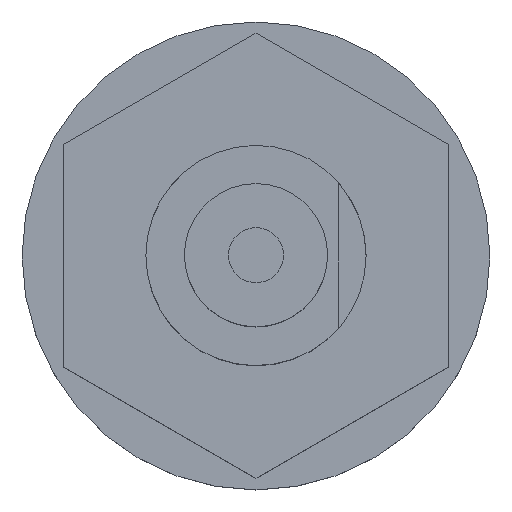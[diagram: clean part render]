
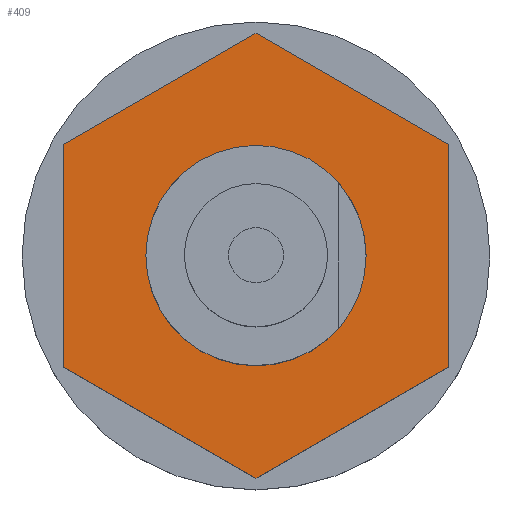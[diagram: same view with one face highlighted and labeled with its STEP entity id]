
A CAD part, top view. The second image highlights one B-rep face of the part: STEP entity #409.
In plain terms, the highlighted planar face has unit normal (0, 0, 1) as drawn and (-1, 0, 0) by its records, which use the part's own axes.
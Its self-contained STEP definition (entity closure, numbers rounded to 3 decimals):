
#227 = EDGE_CURVE ( 'NONE', #404, #228, #914, .T. ) ;
#228 = VERTEX_POINT ( 'NONE', #910 ) ;
#229 = ORIENTED_EDGE ( 'NONE', *, *, #230, .T. ) ;
#230 = EDGE_CURVE ( 'NONE', #228, #231, #909, .T. ) ;
#231 = VERTEX_POINT ( 'NONE', #905 ) ;
#232 = ORIENTED_EDGE ( 'NONE', *, *, #233, .T. ) ;
#233 = EDGE_CURVE ( 'NONE', #231, #234, #904, .T. ) ;
#234 = VERTEX_POINT ( 'NONE', #900 ) ;
#235 = ORIENTED_EDGE ( 'NONE', *, *, #236, .T. ) ;
#236 = EDGE_CURVE ( 'NONE', #234, #354, #899, .T. ) ;
#260 = EDGE_LOOP ( 'NONE', ( #261, #262 ) ) ;
#261 = ORIENTED_EDGE ( 'NONE', *, *, #312, .F. ) ;
#262 = ORIENTED_EDGE ( 'NONE', *, *, #263, .F. ) ;
#263 = EDGE_CURVE ( 'NONE', #272, #313, #949, .T. ) ;
#272 = VERTEX_POINT ( 'NONE', #842 ) ;
#312 = EDGE_CURVE ( 'NONE', #313, #272, #1003, .T. ) ;
#313 = VERTEX_POINT ( 'NONE', #998 ) ;
#352 = EDGE_LOOP ( 'NONE', ( #353, #402, #405, #229, #232, #235 ) ) ;
#353 = ORIENTED_EDGE ( 'NONE', *, *, #400, .T. ) ;
#354 = VERTEX_POINT ( 'NONE', #1010 ) ;
#400 = EDGE_CURVE ( 'NONE', #354, #401, #1091, .T. ) ;
#401 = VERTEX_POINT ( 'NONE', #1114 ) ;
#402 = ORIENTED_EDGE ( 'NONE', *, *, #403, .T. ) ;
#403 = EDGE_CURVE ( 'NONE', #401, #404, #1113, .T. ) ;
#404 = VERTEX_POINT ( 'NONE', #1109 ) ;
#405 = ORIENTED_EDGE ( 'NONE', *, *, #227, .T. ) ;
#409 = ADVANCED_FACE ( 'NONE', ( #1108, #1107 ), #1106, .T. ) ;
#842 = CARTESIAN_POINT ( 'NONE',  ( -3.4, -2., 0. ) ) ;
#898 = CARTESIAN_POINT ( 'NONE',  ( -3.4, -2.021, 3.5 ) ) ;
#899 = LINE ( 'NONE', #898, #940 ) ;
#900 = CARTESIAN_POINT ( 'NONE',  ( -3.4, -2.021, 3.5 ) ) ;
#901 = DIRECTION ( 'NONE',  ( 0., 0.5, 0.866 ) ) ;
#902 = VECTOR ( 'NONE', #901, 1000. ) ;
#903 = CARTESIAN_POINT ( 'NONE',  ( -3.4, -4.041, 0. ) ) ;
#904 = LINE ( 'NONE', #903, #902 ) ;
#905 = CARTESIAN_POINT ( 'NONE',  ( -3.4, -4.041, 0. ) ) ;
#906 = DIRECTION ( 'NONE',  ( 0., -0.5, 0.866 ) ) ;
#907 = VECTOR ( 'NONE', #906, 1000. ) ;
#908 = CARTESIAN_POINT ( 'NONE',  ( -3.4, -2.021, -3.5 ) ) ;
#909 = LINE ( 'NONE', #908, #907 ) ;
#910 = CARTESIAN_POINT ( 'NONE',  ( -3.4, -2.021, -3.5 ) ) ;
#911 = DIRECTION ( 'NONE',  ( 0., -1., 0. ) ) ;
#912 = VECTOR ( 'NONE', #911, 1000. ) ;
#913 = CARTESIAN_POINT ( 'NONE',  ( -3.4, 2.021, -3.5 ) ) ;
#914 = LINE ( 'NONE', #913, #912 ) ;
#939 = DIRECTION ( 'NONE',  ( 0., 1., 0. ) ) ;
#940 = VECTOR ( 'NONE', #939, 1000. ) ;
#945 = DIRECTION ( 'NONE',  ( 0., -1., 0. ) ) ;
#946 = DIRECTION ( 'NONE',  ( -1., 0., 0. ) ) ;
#947 = CARTESIAN_POINT ( 'NONE',  ( -3.4, 0., 0. ) ) ;
#948 = AXIS2_PLACEMENT_3D ( 'NONE', #947, #946, #945 ) ;
#949 = CIRCLE ( 'NONE', #948, 2. ) ;
#998 = CARTESIAN_POINT ( 'NONE',  ( -3.4, 2., 0. ) ) ;
#999 = DIRECTION ( 'NONE',  ( 0., -1., 0. ) ) ;
#1000 = DIRECTION ( 'NONE',  ( -1., 0., 0. ) ) ;
#1001 = CARTESIAN_POINT ( 'NONE',  ( -3.4, 0., 0. ) ) ;
#1002 = AXIS2_PLACEMENT_3D ( 'NONE', #1001, #1000, #999 ) ;
#1003 = CIRCLE ( 'NONE', #1002, 2. ) ;
#1010 = CARTESIAN_POINT ( 'NONE',  ( -3.4, 2.021, 3.5 ) ) ;
#1088 = DIRECTION ( 'NONE',  ( 0., 0.5, -0.866 ) ) ;
#1089 = VECTOR ( 'NONE', #1088, 1000. ) ;
#1090 = CARTESIAN_POINT ( 'NONE',  ( -3.4, 2.021, 3.5 ) ) ;
#1091 = LINE ( 'NONE', #1090, #1089 ) ;
#1102 = DIRECTION ( 'NONE',  ( 0., -1., 0. ) ) ;
#1103 = DIRECTION ( 'NONE',  ( -1., 0., 0. ) ) ;
#1104 = CARTESIAN_POINT ( 'NONE',  ( -3.4, 4.041, 0. ) ) ;
#1105 = AXIS2_PLACEMENT_3D ( 'NONE', #1104, #1103, #1102 ) ;
#1106 = PLANE ( 'NONE',  #1105 ) ;
#1107 = FACE_BOUND ( 'NONE', #260, .T. ) ;
#1108 = FACE_OUTER_BOUND ( 'NONE', #352, .T. ) ;
#1109 = CARTESIAN_POINT ( 'NONE',  ( -3.4, 2.021, -3.5 ) ) ;
#1110 = DIRECTION ( 'NONE',  ( 0., -0.5, -0.866 ) ) ;
#1111 = VECTOR ( 'NONE', #1110, 1000. ) ;
#1112 = CARTESIAN_POINT ( 'NONE',  ( -3.4, 4.041, 0. ) ) ;
#1113 = LINE ( 'NONE', #1112, #1111 ) ;
#1114 = CARTESIAN_POINT ( 'NONE',  ( -3.4, 4.041, 0. ) ) ;
